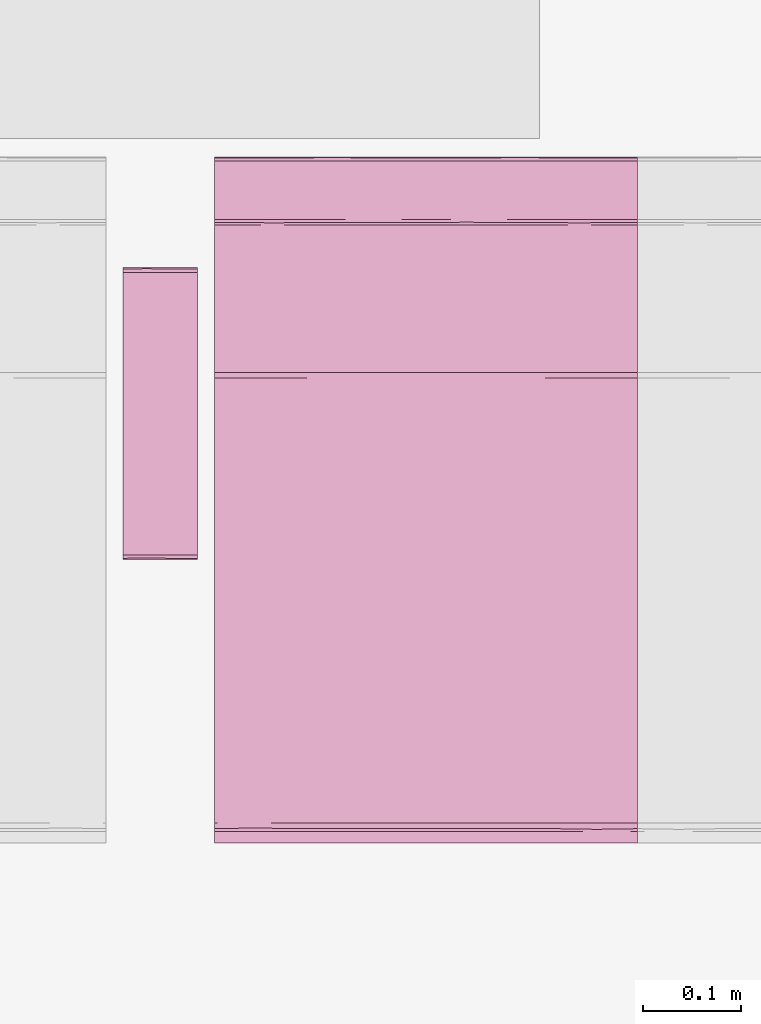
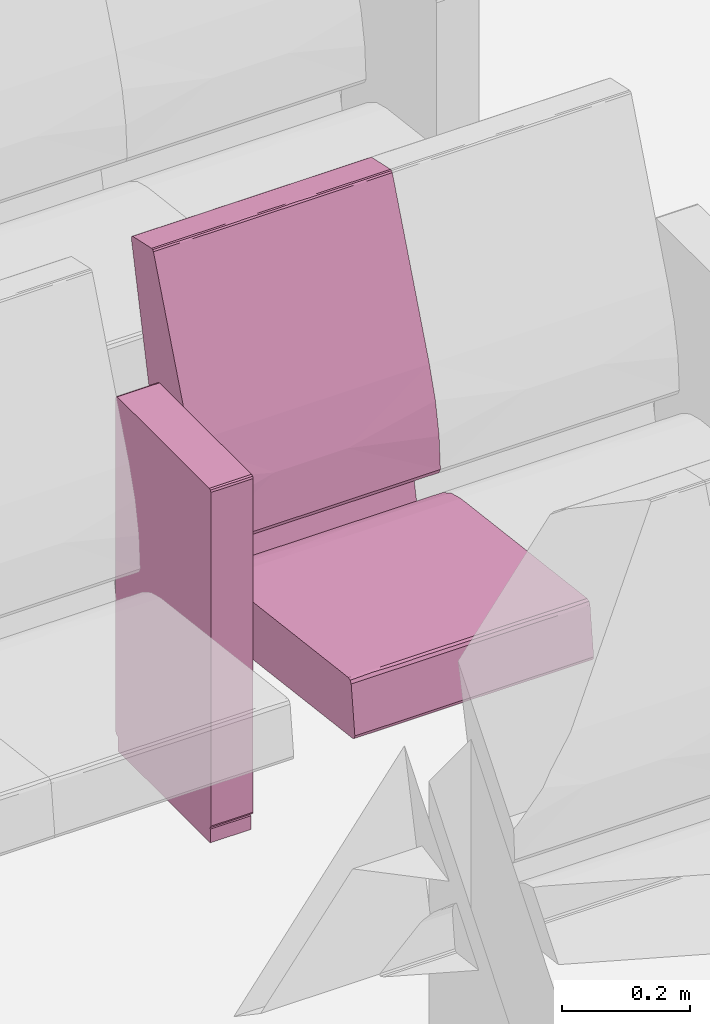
# One storey, part 101 of 155: 1 furnishing.
"""IFC2X3 building model written with IfcOpenShell, lengths in metres."""

from ifc_helpers import new_model, entity, si_unit, converted_unit, derived_unit, direction, frame, origin, place, context, subcontext, project, spatial, faceted_brep, source, transform, mapped, material, material_list, type_object, type_shapes, element, save


model = new_model("IFC2X3")

# Units and contexts
model_context = context("Model", 3, precision=1e-05, world=origin(), true_north=direction((6.12303176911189e-17, 1.0)))
body_context = subcontext(model_context, "Body", "Model", "MODEL_VIEW")
ifc_project = project(units=[si_unit("LENGTHUNIT", "METRE"), si_unit("AREAUNIT", "SQUARE_METRE"), si_unit("VOLUMEUNIT", "CUBIC_METRE"), converted_unit("PLANEANGLEUNIT", "DEGREE", entity("IfcRatioMeasure", 0.0174532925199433), si_unit("PLANEANGLEUNIT", "RADIAN"), dimensions=[0, 0, 0, 0, 0, 0, 0]), si_unit("MASSUNIT", "GRAM", prefix="KILO"), derived_unit("MASSDENSITYUNIT", [(si_unit("MASSUNIT", "GRAM", prefix="KILO"), 1), (si_unit("LENGTHUNIT", "METRE"), -3)]), si_unit("TIMEUNIT", "SECOND"), si_unit("FREQUENCYUNIT", "HERTZ"), si_unit("THERMODYNAMICTEMPERATUREUNIT", "DEGREE_CELSIUS"), derived_unit("THERMALTRANSMITTANCEUNIT", [(si_unit("MASSUNIT", "GRAM", prefix="KILO"), 1), (si_unit("THERMODYNAMICTEMPERATUREUNIT", "KELVIN"), -1), (si_unit("TIMEUNIT", "SECOND"), -3)]), derived_unit("VOLUMETRICFLOWRATEUNIT", [(si_unit("LENGTHUNIT", "METRE"), 3), (si_unit("TIMEUNIT", "SECOND"), -1)]), si_unit("ELECTRICCURRENTUNIT", "AMPERE"), si_unit("ELECTRICVOLTAGEUNIT", "VOLT"), si_unit("POWERUNIT", "WATT"), si_unit("FORCEUNIT", "NEWTON", prefix="KILO"), si_unit("ILLUMINANCEUNIT", "LUX"), si_unit("LUMINOUSFLUXUNIT", "LUMEN"), si_unit("LUMINOUSINTENSITYUNIT", "CANDELA"), derived_unit("USERDEFINED", [(si_unit("MASSUNIT", "GRAM", prefix="KILO"), -1), (si_unit("LENGTHUNIT", "METRE"), -2), (si_unit("TIMEUNIT", "SECOND"), 3), (si_unit("LUMINOUSFLUXUNIT", "LUMEN"), 1)]), derived_unit("LINEARVELOCITYUNIT", [(si_unit("LENGTHUNIT", "METRE"), 1), (si_unit("TIMEUNIT", "SECOND"), -1)]), si_unit("PRESSUREUNIT", "PASCAL"), derived_unit("USERDEFINED", [(si_unit("LENGTHUNIT", "METRE"), -2), (si_unit("MASSUNIT", "GRAM", prefix="KILO"), 1), (si_unit("TIMEUNIT", "SECOND"), -2)])], contexts=[model_context])

# Site, building, storey, space
site_placement = place(None, frame((26.9889013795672, -17.5624287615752, 0.0)))
site = spatial("IfcSite", under=ifc_project, at=site_placement, Name="Default", CompositionType="ELEMENT")
building_placement = place(site_placement, origin())
building = spatial("IfcBuilding", under=site, at=building_placement, Name="C. C. L. Monsenhor Antônio Sampaio", CompositionType="ELEMENT")
storey_placement = place(building_placement, frame((0.0, 0.0, 1.19999999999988)))
storey = spatial("IfcBuildingStorey", under=building, at=storey_placement, Name="Nível 1.2", CompositionType="ELEMENT", Elevation=1.19999999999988)
space_placement = place(storey_placement, origin())
space = spatial("IfcSpace", under=storey, at=space_placement, Name="94", CompositionType="ELEMENT", InteriorOrExteriorSpace="INTERNAL")

# Furnishing
ifc_material_1 = material(Name="V9 - V9 - Ecopelle_672_658")
ifc_material_2 = material(Name="V9 - V9 - RAL_9006_Grigio")
ifc_material_list_1 = material_list([ifc_material_1, ifc_material_2])
ifc_material_list_2 = material_list([ifc_material_1, ifc_material_2])
furniture_type = type_object("IfcFurnitureType", Name="Cadeira auditório", material=ifc_material_list_2)
shared_shape = source(origin(), body_context, "Body", "Brep", [
    faceted_brep([(0.405536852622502, 0.156348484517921, 0.339809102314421), (0.410560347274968, 0.131924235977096, 0.34246450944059), (0.405536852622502, 0.1075, 0.339809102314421), (0.405536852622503, 0.0537499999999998, 0.339809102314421), (0.410597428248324, 0.084060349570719, 0.342506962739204), (0.41079981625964, 0.0179166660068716, 0.342749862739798), (0.405536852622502, 0.215, 0.339809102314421), (0.410248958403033, 0.173608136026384, 0.342130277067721), (0.412515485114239, 0.185674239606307, 0.348529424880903), (0.412515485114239, 0.143333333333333, 0.348529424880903), (0.410560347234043, -0.131924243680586, 0.342464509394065), (0.405536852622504, -0.156348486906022, 0.33980910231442), (0.405536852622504, -0.1075, 0.33980910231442), (0.405536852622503, 0.0, 0.33980910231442), (0.41251548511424, 0.0, 0.348529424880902), (0.411170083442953, -0.0341365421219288, 0.343251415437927), (0.41059742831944, -0.0840603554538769, 0.342506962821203), (0.41251548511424, -0.143333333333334, 0.348529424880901), (0.412515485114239, 0.0358333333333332, 0.348529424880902), (0.412515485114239, 0.0716666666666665, 0.348529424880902), (0.405536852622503, -0.0537500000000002, 0.33980910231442), (0.412515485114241, -0.185674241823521, 0.348529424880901), (0.410799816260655, -0.215, 0.342749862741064), (0.410248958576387, -0.173608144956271, 0.342130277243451), (0.410799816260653, 0.215, 0.342749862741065), (0.412515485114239, 0.215, 0.348529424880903), (0.412515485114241, -0.215, 0.348529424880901), (0.41251548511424, -0.0716666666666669, 0.348529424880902), (0.405536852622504, -0.215, 0.33980910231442), (-0.0557900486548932, -0.215, 0.28268145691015), (-0.055790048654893, -0.168631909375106, 0.282681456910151), (-0.0557900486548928, -0.138065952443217, 0.282681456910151), (-0.0557900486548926, -0.107499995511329, 0.282681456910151), (-0.0557900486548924, -0.0806249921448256, 0.282681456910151), (-0.0557900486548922, -0.0537499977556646, 0.282681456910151), (-0.0557900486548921, -0.0268750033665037, 0.282681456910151), (-0.0557900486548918, 0.0, 0.28268145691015), (-0.0557900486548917, 0.0268749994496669, 0.282681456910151), (-0.0557900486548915, 0.0537499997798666, 0.282681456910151), (-0.0557900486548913, 0.0806250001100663, 0.282681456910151), (-0.0557900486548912, 0.107499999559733, 0.282681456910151), (-0.055790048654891, 0.134374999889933, 0.282681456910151), (-0.0557900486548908, 0.161250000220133, 0.282681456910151), (-0.0557900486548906, 0.1881249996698, 0.282681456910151), (-0.0557900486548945, 0.215, 0.28268145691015), (-0.0594787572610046, -0.0152829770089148, 0.283700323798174), (-0.0613666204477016, 0.0, 0.287029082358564), (-0.0594787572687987, 0.0179017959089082, 0.283700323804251), (-0.0613666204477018, 0.191815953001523, 0.287029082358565), (-0.0613666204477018, 0.215, 0.287029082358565), (-0.0594787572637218, 0.215, 0.283700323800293), (-0.0593340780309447, 0.0671874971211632, 0.283591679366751), (-0.0613666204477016, 0.030565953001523, 0.287029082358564), (-0.0594787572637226, -0.215, 0.283700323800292), (-0.0593337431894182, -0.184174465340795, 0.283591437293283), (-0.0613666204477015, -0.122263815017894, 0.287029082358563), (-0.0613666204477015, -0.0916978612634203, 0.287029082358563), (-0.0613666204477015, -0.0611319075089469, 0.287029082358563), (-0.0593023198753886, -0.0940625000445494, 0.283568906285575), (-0.059382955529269, 0.118123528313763, 0.28362747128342), (-0.0613666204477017, 0.122263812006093, 0.287029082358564), (-0.0597338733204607, 0.147039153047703, 0.283913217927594), (-0.0613666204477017, 0.168631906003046, 0.287029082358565), (-0.0592501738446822, 0.180223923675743, 0.283532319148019), (-0.0588783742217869, 0.0926899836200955, 0.283298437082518), (-0.0613666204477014, -0.215, 0.287029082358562), (-0.0613666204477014, -0.168631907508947, 0.287029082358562), (-0.0592576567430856, -0.123736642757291, 0.283537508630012), (-0.0594787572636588, -0.153348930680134, 0.283700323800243), (-0.0613666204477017, 0.0916978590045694, 0.287029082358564), (-0.0613666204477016, -0.0305659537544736, 0.287029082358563), (-0.059645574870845, -0.045848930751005, 0.283836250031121), (-0.0613666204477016, 0.0611319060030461, 0.287029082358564), (-0.069340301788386, -0.215, 0.351419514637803), (-0.0693403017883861, -0.143333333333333, 0.351419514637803), (-0.0693403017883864, -0.0716666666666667, 0.351419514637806), (-0.0693403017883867, 0.0, 0.351419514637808), (-0.069340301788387, 0.0716666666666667, 0.351419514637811), (-0.0693403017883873, 0.143333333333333, 0.351419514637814), (-0.0693403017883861, 0.215, 0.351419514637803), (-0.0597085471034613, 0.0, 0.37476954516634), (-0.0645543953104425, 0.112272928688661, 0.369803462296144), (-0.0653387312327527, 0.0126787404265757, 0.368680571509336), (-0.0681665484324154, -0.0888707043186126, 0.36292533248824), (-0.0655136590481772, -0.10440004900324, 0.368411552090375), (-0.0694879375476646, 0.0590582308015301, 0.356377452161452), (-0.0695056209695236, -0.125492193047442, 0.356093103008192), (-0.0597085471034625, -0.110316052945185, 0.374769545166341), (-0.0690003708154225, 0.132942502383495, 0.359900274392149), (-0.0672851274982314, 0.108066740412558, 0.365148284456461), (-0.0676206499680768, 0.215, 0.364371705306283), (-0.0686241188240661, 0.215, 0.356813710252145), (-0.0686241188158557, -0.214999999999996, 0.356813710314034), (-0.0686999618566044, 0.0358333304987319, 0.36116674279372), (-0.0694502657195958, -0.0358333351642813, 0.356863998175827), (-0.0676206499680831, -0.214999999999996, 0.364371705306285), (-0.0636645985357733, -0.214999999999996, 0.369570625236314), (-0.0597085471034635, -0.214999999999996, 0.374769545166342), (-0.0597085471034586, 0.215, 0.374769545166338), (-0.0636645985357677, 0.215, 0.36957062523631), (-0.0597085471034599, 0.110316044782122, 0.374769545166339), (-0.0324117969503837, 0.215, 0.390639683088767), (-0.0324117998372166, 0.0436847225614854, 0.39063968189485), (-0.0018793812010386, 0.215, 0.398686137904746), (-0.041847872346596, -0.0856576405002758, 0.386239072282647), (-0.0324117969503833, -0.215, 0.390639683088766), (-0.00187938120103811, -0.215, 0.398686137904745), (-0.00187938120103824, -0.102488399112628, 0.398686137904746), (-0.0219042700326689, -0.0570631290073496, 0.394412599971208), (-0.00187938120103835, 0.0, 0.398686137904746), (0.392202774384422, 0.215, 0.447486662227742), (0.392202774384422, -0.215, 0.447486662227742), (0.392202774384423, -0.156349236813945, 0.447486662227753), (0.392202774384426, -0.107499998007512, 0.447486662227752), (0.392202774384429, -0.0537500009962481, 0.44748666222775), (0.392202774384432, 0.0, 0.447486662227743), (0.392202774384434, 0.0537499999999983, 0.447486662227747), (0.392202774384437, 0.107499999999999, 0.447486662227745), (0.392202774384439, 0.156349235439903, 0.447486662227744), (0.398104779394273, -0.131924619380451, 0.445856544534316), (0.401125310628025, -0.0976984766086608, 0.440530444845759), (0.397860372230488, -0.0827732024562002, 0.446039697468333), (0.401125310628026, -0.215000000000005, 0.440530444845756), (0.401125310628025, -0.156349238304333, 0.440530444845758), (0.397373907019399, -0.173462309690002, 0.446363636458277), (0.398104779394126, -0.215000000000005, 0.445856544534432), (0.397860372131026, 0.0827731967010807, 0.446039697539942), (0.398104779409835, 0.131924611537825, 0.445856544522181), (0.398104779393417, -0.0237489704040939, 0.445856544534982), (0.398104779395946, 0.0268749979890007, 0.445856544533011), (0.401125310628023, 0.0488492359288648, 0.440530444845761), (0.401125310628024, -0.0488492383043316, 0.440530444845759), (0.398774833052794, 0.173462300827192, 0.445271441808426), (0.401125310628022, 0.097698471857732, 0.440530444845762), (0.401125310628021, 0.215, 0.440530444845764), (0.39810477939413, 0.215, 0.445856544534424), (0.401125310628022, 0.156349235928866, 0.440530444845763), (0.401125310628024, 0.0, 0.44053044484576)], [[[0, 1, 2]], [[3, 4, 5]], [[6, 7, 0]], [[7, 8, 9]], [[10, 11, 12]], [[3, 5, 13]], [[14, 15, 5]], [[16, 17, 10]], [[9, 1, 7]], [[18, 5, 4]], [[4, 9, 19, 18]], [[9, 4, 1]], [[2, 1, 4]], [[13, 15, 20]], [[21, 22, 23]], [[5, 18, 14]], [[24, 25, 8]], [[22, 21, 26]], [[24, 7, 6]], [[23, 11, 10]], [[20, 15, 16]], [[3, 2, 4]], [[14, 27, 15]], [[5, 15, 13]], [[27, 17, 16]], [[10, 12, 16]], [[21, 23, 17]], [[20, 16, 12]], [[15, 27, 16]], [[7, 1, 0]], [[28, 11, 23]], [[8, 7, 24]], [[23, 10, 17]], [[28, 23, 22]], [[28, 29, 30, 31, 32, 33, 34, 35, 36, 37, 38, 39, 40, 41, 42, 43, 44, 6, 0, 2, 3, 13, 20, 12, 11]], [[45, 46, 47]], [[48, 49, 50]], [[51, 47, 52]], [[29, 53, 54]], [[55, 56, 57, 58]], [[59, 60, 61]], [[61, 62, 63]], [[51, 64, 39]], [[65, 66, 54]], [[31, 67, 32]], [[45, 47, 38, 37, 36, 35]], [[68, 31, 30]], [[43, 50, 44]], [[63, 42, 61]], [[48, 50, 63]], [[64, 69, 59]], [[68, 54, 66]], [[63, 62, 48]], [[50, 43, 63]], [[67, 55, 58]], [[61, 42, 41]], [[45, 70, 46]], [[55, 68, 66]], [[71, 33, 58]], [[71, 57, 70]], [[41, 40, 59]], [[60, 62, 61]], [[71, 35, 34, 33]], [[35, 71, 45]], [[47, 46, 52]], [[45, 71, 70]], [[58, 57, 71]], [[32, 58, 33]], [[31, 68, 67]], [[54, 68, 30]], [[29, 54, 30]], [[54, 53, 65]], [[55, 67, 68]], [[32, 67, 58]], [[51, 52, 72, 69]], [[43, 42, 63]], [[41, 59, 61]], [[47, 51, 38]], [[40, 39, 64]], [[38, 51, 39]], [[69, 60, 59]], [[69, 64, 51]], [[40, 64, 59]], [[65, 73, 74, 75, 76, 77, 78, 79, 49, 48, 62, 60, 69, 72, 52, 46, 70, 57, 56, 55, 66]], [[80, 81, 82]], [[82, 83, 84]], [[78, 77, 76, 85]], [[86, 75, 74]], [[84, 80, 82]], [[80, 84, 87]], [[88, 89, 90]], [[91, 79, 78]], [[74, 73, 92]], [[85, 88, 91]], [[81, 89, 82]], [[93, 94, 83]], [[94, 86, 83]], [[85, 76, 94]], [[92, 86, 74]], [[85, 94, 93]], [[83, 92, 95]], [[75, 94, 76]], [[93, 83, 82]], [[95, 96, 84]], [[88, 85, 93]], [[96, 97, 87]], [[98, 99, 100]], [[78, 85, 91]], [[89, 88, 93]], [[90, 91, 88]], [[93, 82, 89]], [[81, 99, 89]], [[99, 90, 89]], [[100, 81, 80]], [[100, 99, 81]], [[83, 86, 92]], [[75, 86, 94]], [[95, 84, 83]], [[87, 84, 96]], [[101, 102, 103]], [[104, 80, 87, 97]], [[105, 106, 107]], [[107, 108, 105]], [[103, 102, 109]], [[104, 102, 80]], [[104, 108, 102]], [[98, 102, 101]], [[105, 104, 97]], [[105, 108, 104]], [[102, 98, 100, 80]], [[109, 108, 107]], [[109, 102, 108]], [[110, 103, 109, 107, 106, 111, 112, 113, 114, 115, 116, 117, 118]], [[119, 120, 121]], [[122, 123, 124]], [[111, 125, 124]], [[117, 116, 126]], [[124, 119, 112]], [[113, 112, 119]], [[127, 118, 117]], [[115, 114, 128, 129, 116]], [[129, 130, 126]], [[121, 131, 128]], [[127, 132, 118]], [[110, 118, 132]], [[127, 126, 133]], [[119, 124, 123]], [[134, 135, 132]], [[136, 132, 127]], [[120, 119, 123]], [[133, 136, 127]], [[137, 130, 129, 128, 131]], [[126, 127, 117]], [[130, 133, 126]], [[113, 119, 121]], [[129, 126, 116]], [[128, 114, 121]], [[114, 113, 121]], [[131, 121, 120]], [[111, 124, 112]], [[124, 125, 122]], [[134, 132, 136]], [[132, 135, 110]], [[19, 9, 8, 25, 134, 136, 133, 130, 137, 131, 120, 123, 122, 26, 21, 17, 27, 14, 18]], [[65, 53, 29, 28, 22, 26, 122, 125, 111, 106, 105, 97, 96, 95, 92, 73]], [[98, 101, 103, 110, 135, 134, 25, 24, 6, 44, 50, 49, 79, 91, 90, 99]]]),
    faceted_brep([(0.123144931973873, -0.283972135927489, 0.673627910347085), (0.12334838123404, -0.259944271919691, 0.6734355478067), (0.119812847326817, -0.27, 0.674900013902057), (0.124812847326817, -0.27, 0.669900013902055), (0.12334838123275, -0.232, 0.673435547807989), (0.119812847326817, -0.232, 0.674900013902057), (0.124812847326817, -0.308, 0.669900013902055), (0.119812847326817, -0.308, 0.674900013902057), (0.124812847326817, -0.249888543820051, 0.669900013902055), (0.124812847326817, -0.232, 0.669900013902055), (0.12334838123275, -0.308, 0.673435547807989), (0.124812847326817, -0.27, 0.035), (0.124812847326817, -0.232, 0.035), (0.124812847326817, -0.308, 0.0350000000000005), (0.123540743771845, -0.283972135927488, 0.0316679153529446), (0.12334838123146, -0.25994427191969, 0.0314644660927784), (0.119812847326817, -0.27, 0.0300000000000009), (0.12334838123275, -0.232, 0.0314644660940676), (0.119812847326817, -0.308, 0.0300000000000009), (0.119812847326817, -0.249888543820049, 0.030000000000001), (0.119812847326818, -0.232, 0.030000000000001), (0.123348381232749, -0.308, 0.0314644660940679), (-0.167179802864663, -0.308, 0.0300000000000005), (-0.167179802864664, -0.27, 0.0300000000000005), (-0.167179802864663, -0.232, 0.0300000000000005), (-0.17051188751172, -0.283972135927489, 0.0312721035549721), (-0.170715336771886, -0.25994427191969, 0.0314644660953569), (-0.172179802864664, -0.27, 0.0350000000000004), (-0.170715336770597, -0.232, 0.0314644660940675), (-0.172179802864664, -0.308, 0.0350000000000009), (-0.172179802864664, -0.24988854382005, 0.0350000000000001), (-0.172179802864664, -0.232, 0.0349999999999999), (-0.170715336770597, -0.308, 0.0314644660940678), (-0.172179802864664, -0.308, 0.669900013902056), (-0.172179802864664, -0.27, 0.669900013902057), (-0.172179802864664, -0.232, 0.669900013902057), (-0.170907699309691, -0.283972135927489, 0.673232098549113), (-0.170715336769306, -0.259944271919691, 0.673435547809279), (-0.167179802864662, -0.27, 0.674900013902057), (-0.170715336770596, -0.232, 0.67343554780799), (-0.167179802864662, -0.308, 0.674900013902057), (-0.167179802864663, -0.249888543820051, 0.674900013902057), (-0.167179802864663, -0.232, 0.674900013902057), (-0.170715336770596, -0.308, 0.67343554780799)], [[[0, 1, 2]], [[1, 0, 3]], [[1, 4, 5, 2]], [[6, 3, 0]], [[7, 0, 2]], [[4, 1, 3, 8, 9]], [[10, 0, 7]], [[0, 10, 6]], [[11, 12, 9, 8, 3, 6, 13]], [[14, 15, 11]], [[15, 14, 16]], [[15, 17, 12, 11]], [[18, 16, 14]], [[13, 14, 11]], [[17, 15, 16, 19, 20]], [[21, 14, 13]], [[14, 21, 18]], [[18, 22, 23, 24, 20, 19, 16]], [[25, 26, 23]], [[26, 25, 27]], [[26, 28, 24, 23]], [[29, 27, 25]], [[22, 25, 23]], [[28, 26, 27, 30, 31]], [[32, 25, 22]], [[25, 32, 29]], [[27, 29, 33, 34, 35, 31, 30]], [[36, 37, 34]], [[37, 36, 38]], [[37, 39, 35, 34]], [[40, 38, 36]], [[33, 36, 34]], [[39, 37, 38, 41, 42]], [[43, 36, 33]], [[36, 43, 40]], [[40, 7, 2, 5, 42, 41, 38]], [[35, 39, 42, 5, 4, 9, 12, 17, 20, 24, 28, 31]], [[29, 32, 22, 18, 21, 13, 6, 10, 7, 40, 43, 33]]]),
    faceted_brep([(-0.0695672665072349, 0.215, 0.476508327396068), (-0.074405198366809, 0.0524423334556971, 0.506888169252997), (-0.0655618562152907, 0.215, 0.415143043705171), (-0.0744051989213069, -0.0780075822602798, 0.506888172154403), (-0.0655618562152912, 0.0, 0.415143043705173), (-0.0655618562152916, -0.215, 0.415143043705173), (-0.0655618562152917, -0.1075, 0.415143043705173), (-0.0655618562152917, 0.1075, 0.415143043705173), (-0.0695672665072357, -0.215, 0.476508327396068), (-0.081111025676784, -0.215, 0.536911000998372), (-0.0811110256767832, 0.215, 0.536911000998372), (-0.100016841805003, 0.215, 0.595428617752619), (-0.100016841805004, 0.0, 0.595428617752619), (-0.100016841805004, -0.215, 0.595428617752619), (-0.0698317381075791, 0.0358333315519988, 0.406528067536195), (-0.0792851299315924, 0.0, 0.404772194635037), (-0.0792851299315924, 0.0716666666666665, 0.404772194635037), (-0.0792851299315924, -0.215, 0.404772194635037), (-0.0792851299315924, -0.143333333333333, 0.404772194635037), (-0.0698317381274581, -0.215, 0.406528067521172), (-0.0792851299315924, 0.143333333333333, 0.404772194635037), (-0.0792851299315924, 0.215, 0.404772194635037), (-0.0698317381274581, 0.215, 0.406528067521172), (-0.0694171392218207, 0.140338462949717, 0.406857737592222), (-0.0708115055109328, -0.0356393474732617, 0.405868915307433), (-0.0703502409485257, -0.107500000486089, 0.406159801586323), (-0.0792851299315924, -0.0716666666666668, 0.404772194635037), (-0.163837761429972, -0.215, 0.420611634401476), (-0.163837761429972, 0.215, 0.420611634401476), (-0.123612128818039, 0.215, 0.235917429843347), (-0.123612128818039, -0.215, 0.235917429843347), (-0.142059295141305, -0.215, 0.231899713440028), (-0.142059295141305, 0.215, 0.231899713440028), (-0.235388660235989, -0.215, 0.652619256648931), (-0.235388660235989, 0.215, 0.652619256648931), (-0.28428001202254, -0.215, 0.873004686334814), (-0.284280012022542, -0.191295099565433, 0.873004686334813), (-0.284280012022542, -0.161249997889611, 0.873004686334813), (-0.284280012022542, -0.134374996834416, 0.873004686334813), (-0.284280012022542, -0.107499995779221, 0.873004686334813), (-0.284280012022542, -0.0806249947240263, 0.873004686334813), (-0.284280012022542, -0.0537499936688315, 0.873004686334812), (-0.284280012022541, -0.0268749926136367, 0.873004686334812), (-0.28428001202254, 0.0, 0.873004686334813), (-0.284280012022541, 0.0268749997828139, 0.873004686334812), (-0.284280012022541, 0.0537500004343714, 0.873004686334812), (-0.284280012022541, 0.0806250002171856, 0.873004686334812), (-0.284280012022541, 0.1075, 0.873004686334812), (-0.284280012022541, 0.134374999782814, 0.873004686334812), (-0.28428001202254, 0.161249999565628, 0.873004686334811), (-0.28428001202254, 0.191295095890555, 0.873004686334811), (-0.28428001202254, 0.215, 0.873004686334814), (-0.283746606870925, 0.0872244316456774, 0.876674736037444), (-0.283504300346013, 0.0569644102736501, 0.877068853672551), (-0.283567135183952, -0.15546176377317, 0.876973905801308), (-0.283641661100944, -0.12093750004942, 0.87685511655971), (-0.283567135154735, 0.155461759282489, 0.876973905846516), (-0.28330409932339, 0.185293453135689, 0.877344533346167), (-0.283641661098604, 0.0179166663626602, 0.876855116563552), (-0.283641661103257, -0.0136463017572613, 0.876855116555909), (-0.280514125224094, -0.0358333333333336, 0.879190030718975), (-0.280514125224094, 0.0, 0.879190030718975), (-0.280514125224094, 0.0358333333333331, 0.879190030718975), (-0.280514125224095, -0.143333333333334, 0.879190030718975), (-0.280514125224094, -0.1075, 0.879190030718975), (-0.280514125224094, -0.071666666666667, 0.879190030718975), (-0.283746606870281, -0.0872244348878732, 0.876674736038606), (-0.280514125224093, 0.0716666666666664, 0.879190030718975), (-0.280514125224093, 0.1075, 0.879190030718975), (-0.283641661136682, 0.120937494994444, 0.876855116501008), (-0.280514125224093, 0.143333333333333, 0.879190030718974), (-0.283641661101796, 0.215, 0.876855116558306), (-0.283641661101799, -0.215, 0.876855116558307), (-0.283304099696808, -0.18529345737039, 0.877344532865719), (-0.280514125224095, -0.167590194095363, 0.879190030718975), (-0.280514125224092, 0.215, 0.879190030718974), (-0.280514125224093, 0.167590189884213, 0.879190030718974), (-0.280514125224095, -0.215, 0.879190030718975), (-0.283504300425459, -0.0569644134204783, 0.8770688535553), (-0.22111253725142, 0.215, 0.892176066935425), (-0.22111253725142, -0.215, 0.892176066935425), (-0.221112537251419, -0.191815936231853, 0.892176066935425), (-0.221112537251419, -0.161250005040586, 0.892176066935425), (-0.221112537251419, -0.134375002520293, 0.892176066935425), (-0.221112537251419, -0.1075, 0.892176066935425), (-0.221112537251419, -0.080624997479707, 0.892176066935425), (-0.221112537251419, -0.0537499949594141, 0.892176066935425), (-0.221112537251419, -0.0268750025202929, 0.892176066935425), (-0.221112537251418, 0.0, 0.892176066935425), (-0.221112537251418, 0.0268750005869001, 0.892176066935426), (-0.221112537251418, 0.05375000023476, 0.892176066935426), (-0.221112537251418, 0.0806249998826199, 0.892176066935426), (-0.221112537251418, 0.10749999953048, 0.892176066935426), (-0.221112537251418, 0.13437499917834, 0.892176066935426), (-0.221112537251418, 0.16124999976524, 0.892176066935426), (-0.221112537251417, 0.19181594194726, 0.892176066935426), (-0.215419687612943, 0.0, 0.889191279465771), (-0.215419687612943, 0.0358333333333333, 0.889191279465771), (-0.217722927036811, 0.0162353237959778, 0.891719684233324), (-0.217722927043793, -0.0134375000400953, 0.891719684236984), (-0.215419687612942, -0.191815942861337, 0.889191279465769), (-0.215419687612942, -0.168631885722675, 0.889191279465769), (-0.217722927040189, -0.182482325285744, 0.891719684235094), (-0.217722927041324, -0.215, 0.891719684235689), (-0.215419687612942, -0.215, 0.889191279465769), (-0.215419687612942, -0.1075, 0.88919127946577), (-0.215419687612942, -0.0716666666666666, 0.88919127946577), (-0.217722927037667, -0.0912646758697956, 0.891719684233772), (-0.217722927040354, -0.120937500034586, 0.89171968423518), (-0.215419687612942, -0.143333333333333, 0.88919127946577), (-0.215419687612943, 0.191815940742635, 0.889191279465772), (-0.215419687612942, 0.215, 0.889191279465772), (-0.217722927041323, 0.215, 0.89171968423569), (-0.217722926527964, 0.190103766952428, 0.891719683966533), (-0.217722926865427, 0.0912646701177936, 0.891719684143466), (-0.217816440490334, 0.0647800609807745, 0.891767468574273), (-0.215419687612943, 0.0716666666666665, 0.889191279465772), (-0.217816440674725, -0.0647800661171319, 0.891767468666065), (-0.2179983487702, -0.0390825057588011, 0.891853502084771), (-0.217558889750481, -0.155982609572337, 0.891629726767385), (-0.217722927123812, 0.120937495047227, 0.891719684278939), (-0.215419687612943, 0.16863188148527, 0.889191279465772), (-0.215419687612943, 0.143333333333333, 0.889191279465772), (-0.217558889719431, 0.15598260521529, 0.891629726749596), (-0.215419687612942, -0.0358333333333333, 0.889191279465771), (-0.215419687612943, 0.1075, 0.889191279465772), (-0.218257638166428, 0.0404491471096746, 0.891961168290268)], [[[0, 1, 2]], [[1, 3, 4]], [[3, 5, 6, 4]], [[1, 4, 7, 2]], [[5, 3, 8]], [[8, 3, 9]], [[0, 10, 1]], [[11, 12, 1]], [[3, 13, 9]], [[3, 12, 13]], [[11, 1, 10]], [[3, 1, 12]], [[14, 15, 16]], [[17, 18, 19]], [[20, 21, 22]], [[2, 23, 22]], [[14, 7, 4]], [[14, 24, 15]], [[6, 25, 24]], [[22, 23, 20]], [[14, 23, 7]], [[19, 6, 5]], [[4, 24, 14]], [[16, 23, 14]], [[16, 20, 23]], [[26, 25, 18]], [[25, 19, 18]], [[15, 24, 26]], [[23, 2, 7]], [[19, 25, 6]], [[26, 24, 25]], [[6, 24, 4]], [[15, 26, 18, 17, 27, 28, 21, 20, 16]], [[29, 28, 27, 30]], [[30, 31, 32, 29]], [[32, 31, 33, 34]], [[34, 33, 35, 36, 37, 38, 39, 40, 41, 42, 43, 44, 45, 46, 47, 48, 49, 50, 51]], [[52, 46, 53]], [[38, 54, 55]], [[56, 57, 49]], [[58, 59, 60, 61, 62]], [[63, 64, 55]], [[64, 65, 66]], [[52, 67, 68]], [[69, 70, 56]], [[49, 57, 50]], [[38, 55, 39]], [[71, 51, 50]], [[36, 35, 72]], [[59, 58, 44, 43, 42]], [[73, 74, 54]], [[55, 66, 39]], [[75, 57, 76]], [[77, 74, 73]], [[69, 52, 68]], [[37, 36, 73]], [[54, 74, 63]], [[56, 76, 57]], [[36, 72, 73]], [[75, 71, 57]], [[70, 76, 56]], [[52, 69, 47]], [[48, 47, 69]], [[42, 78, 59]], [[66, 55, 64]], [[50, 57, 71]], [[73, 54, 37]], [[77, 73, 72]], [[48, 69, 56]], [[56, 49, 48]], [[69, 68, 70]], [[53, 46, 45, 44]], [[58, 62, 53]], [[53, 44, 58]], [[38, 37, 54]], [[63, 55, 54]], [[78, 66, 65]], [[78, 40, 66]], [[67, 52, 53]], [[78, 42, 41, 40]], [[65, 60, 78]], [[59, 78, 60]], [[52, 47, 46]], [[40, 39, 66]], [[62, 67, 53]], [[79, 75, 76, 70, 68, 67, 62, 61, 60, 65, 64, 63, 74, 77, 80, 81, 82, 83, 84, 85, 86, 87, 88, 89, 90, 91, 92, 93, 94, 95]], [[96, 97, 98, 99]], [[100, 101, 102, 103, 104]], [[105, 106, 107, 108, 109]], [[110, 111, 112]], [[113, 112, 95]], [[114, 115, 116]], [[117, 118, 86]], [[82, 119, 83]], [[102, 82, 81, 80, 103]], [[112, 79, 95]], [[108, 107, 85, 84, 83]], [[88, 87, 99, 98, 89]], [[119, 101, 109]], [[93, 92, 120]], [[117, 85, 107]], [[113, 121, 110]], [[122, 121, 123]], [[113, 94, 123]], [[124, 99, 118]], [[122, 123, 120]], [[108, 119, 109]], [[113, 110, 112]], [[102, 101, 119]], [[119, 108, 83]], [[114, 125, 120]], [[123, 94, 93]], [[93, 120, 123]], [[114, 120, 92]], [[122, 120, 125]], [[117, 107, 106]], [[114, 92, 91]], [[116, 125, 114]], [[115, 91, 90]], [[85, 117, 86]], [[126, 89, 98]], [[117, 106, 124]], [[118, 99, 87]], [[124, 96, 99]], [[97, 116, 115]], [[97, 115, 126]], [[86, 118, 87]], [[124, 118, 117]], [[91, 115, 114]], [[115, 90, 126]], [[89, 126, 90]], [[97, 126, 98]], [[82, 102, 119]], [[94, 113, 95]], [[121, 113, 123]], [[11, 111, 110, 121, 122, 125, 116, 97, 96, 124, 106, 105, 109, 101, 100, 104, 13, 12]], [[27, 17, 19, 5, 8, 9, 13, 104, 103, 80, 77, 72, 35, 33, 31, 30]], [[51, 71, 75, 79, 112, 111, 11, 10, 0, 2, 22, 21, 28, 29, 32, 34]]]),
    faceted_brep([(0.120312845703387, -0.2335, 0.0), (0.120312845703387, -0.2335, 0.0260000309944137), (0.120312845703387, -0.249500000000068, 0.0260000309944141), (0.120312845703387, -0.27, 0.0260000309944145), (0.120312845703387, -0.3065, 0.0260000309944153), (0.120312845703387, -0.3065, 0.0), (-0.167687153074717, -0.3065, 0.0), (-0.167687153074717, -0.2335, 0.0), (-0.167687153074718, -0.27, 0.0260000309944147), (-0.167687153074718, -0.2335, 0.0260000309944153), (-0.167687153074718, -0.3065, 0.0260000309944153), (-0.166521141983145, -0.233500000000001, 0.0288228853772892), (-0.166521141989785, -0.257382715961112, 0.0288228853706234), (-0.163702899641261, -0.233500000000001, 0.0300000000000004), (-0.163702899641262, -0.3065, 0.0300000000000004), (-0.16652114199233, -0.279986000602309, 0.0288228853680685), (-0.166521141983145, -0.3065, 0.0288228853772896), (-0.163702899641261, -0.27, 0.0300000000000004), (0.116297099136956, -0.3065, 0.0300000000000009), (0.116297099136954, -0.269999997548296, 0.0300000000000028), (0.116297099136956, -0.2335, 0.0300000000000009), (0.119033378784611, -0.283124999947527, 0.0289323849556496), (0.1191357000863, -0.2335, 0.0288340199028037), (0.119135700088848, -0.259750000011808, 0.0288340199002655), (0.119135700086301, -0.3065, 0.0288340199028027)], [[[0, 1, 2, 3, 4, 5]], [[0, 5, 6, 7]], [[8, 9, 7, 6, 10]], [[11, 12, 13]], [[14, 15, 16]], [[15, 14, 17, 13, 12]], [[9, 8, 12, 11]], [[16, 15, 10]], [[8, 10, 15, 12]], [[14, 18, 19, 20, 13, 17]], [[21, 4, 3]], [[22, 20, 19, 23]], [[3, 2, 1, 22, 23]], [[24, 21, 18]], [[21, 3, 23]], [[18, 21, 19]], [[21, 24, 4]], [[21, 23, 19]], [[6, 5, 4, 24, 18, 14, 16, 10]], [[7, 9, 11, 13, 20, 22, 1, 0]]]),
])
type_shapes(furniture_type, [shared_shape])
furnishing_placement = place(space_placement, frame((-11.4859492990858, -15.3086263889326, 0.0), z_axis=(0.0, 0.0, 1.0), x_axis=(0.0, -1.0, 0.0)))
element("IfcFurnishingElement", 1, at=furnishing_placement, inside=space, type_object=furniture_type, material=ifc_material_list_1, Name="cadeira auditório pcd:Cadeira auditório", ObjectType="Cadeira auditório", context=body_context, shape_type="MappedRepresentation", body=[
    mapped(shared_shape, transform((0.0, 0.0, 0.0), scale=1.0)),
])

save(model, "model.ifc")
